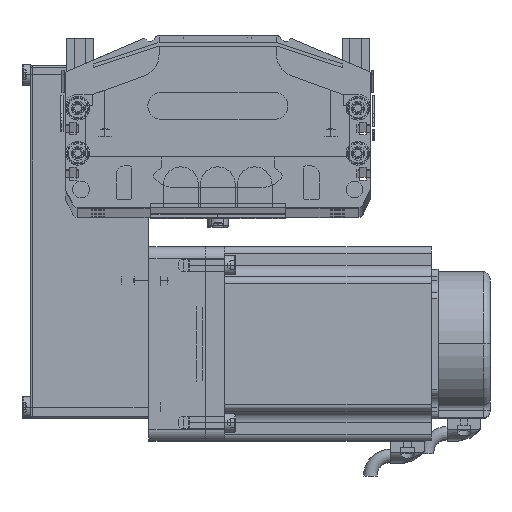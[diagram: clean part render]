
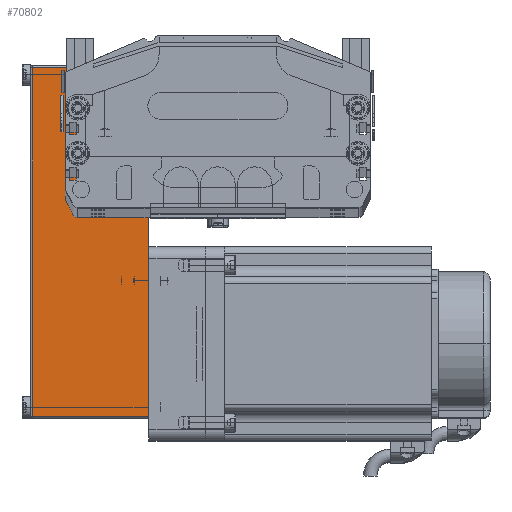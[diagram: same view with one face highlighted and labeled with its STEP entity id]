
A CAD part, top view. The second image highlights one B-rep face of the part: STEP entity #70802.
In plain terms, the highlighted planar face has unit normal (0, 0, 1) as drawn and (0, -1, 0) by its records, which use the part's own axes.
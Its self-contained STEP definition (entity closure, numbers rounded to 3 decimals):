
#5436 = CARTESIAN_POINT ( 'NONE',  ( -123.2, -40., 52.5 ) ) ;
#5438 = LINE ( 'NONE', #5436, #5558 ) ;
#5510 = DIRECTION ( 'NONE',  ( 0., 0., -1. ) ) ;
#5558 = VECTOR ( 'NONE', #5510, 1000. ) ;
#5808 = CARTESIAN_POINT ( 'NONE',  ( -123.2, -40., 0. ) ) ;
#6701 = CARTESIAN_POINT ( 'NONE',  ( 31., -40., 0. ) ) ;
#7520 = AXIS2_PLACEMENT_3D ( 'NONE', #7541, #7542, #7587 ) ;
#7541 = CARTESIAN_POINT ( 'NONE',  ( 32., -40., 52.5 ) ) ;
#7542 = DIRECTION ( 'NONE',  ( 0., 1., 0. ) ) ;
#7587 = DIRECTION ( 'NONE',  ( -1., 0., 0. ) ) ;
#7614 = PLANE ( 'NONE',  #7520 ) ;
#7616 = FACE_OUTER_BOUND ( 'NONE', #70940, .T. ) ;
#13287 = CARTESIAN_POINT ( 'NONE',  ( 31., -40., 51.5 ) ) ;
#13288 = CARTESIAN_POINT ( 'NONE',  ( -123.2, -40., 51.5 ) ) ;
#13352 = DIRECTION ( 'NONE',  ( -1., 0., 0. ) ) ;
#13353 = VECTOR ( 'NONE', #13352, 1000. ) ;
#13354 = CARTESIAN_POINT ( 'NONE',  ( 32., -40., 51.5 ) ) ;
#13355 = LINE ( 'NONE', #13354, #13353 ) ;
#13464 = DIRECTION ( 'NONE',  ( 0., 0., 1. ) ) ;
#13465 = VECTOR ( 'NONE', #13464, 1000. ) ;
#13466 = CARTESIAN_POINT ( 'NONE',  ( 31., -40., 52.5 ) ) ;
#13479 = LINE ( 'NONE', #13466, #13465 ) ;
#54200 = DIRECTION ( 'NONE',  ( 1., 0., 0. ) ) ;
#54201 = VECTOR ( 'NONE', #54200, 1000. ) ;
#54202 = CARTESIAN_POINT ( 'NONE',  ( 32., -40., 0. ) ) ;
#54221 = LINE ( 'NONE', #54202, #54201 ) ;
#70296 = EDGE_CURVE ( 'NONE', #70452, #70676, #54221, .T. ) ;
#70452 = VERTEX_POINT ( 'NONE', #5808 ) ;
#70676 = VERTEX_POINT ( 'NONE', #6701 ) ;
#70700 = ORIENTED_EDGE ( 'NONE', *, *, #70969, .T. ) ;
#70701 = EDGE_CURVE ( 'NONE', #70939, #70452, #5438, .T. ) ;
#70802 = ADVANCED_FACE ( 'NONE', ( #7616 ), #7614, .F. ) ;
#70939 = VERTEX_POINT ( 'NONE', #13288 ) ;
#70940 = EDGE_LOOP ( 'NONE', ( #70958, #70961, #70700, #70960 ) ) ;
#70943 = VERTEX_POINT ( 'NONE', #13287 ) ;
#70958 = ORIENTED_EDGE ( 'NONE', *, *, #70296, .T. ) ;
#70960 = ORIENTED_EDGE ( 'NONE', *, *, #70701, .T. ) ;
#70961 = ORIENTED_EDGE ( 'NONE', *, *, #71013, .T. ) ;
#70969 = EDGE_CURVE ( 'NONE', #70943, #70939, #13355, .T. ) ;
#71013 = EDGE_CURVE ( 'NONE', #70676, #70943, #13479, .T. ) ;
